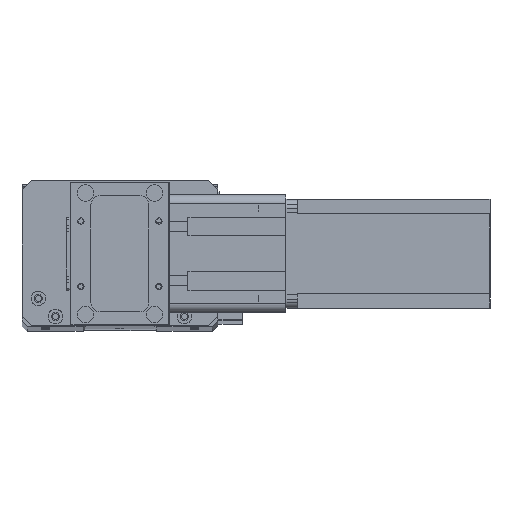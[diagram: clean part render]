
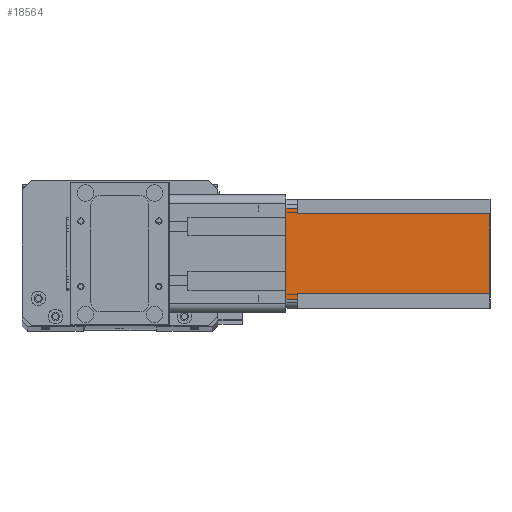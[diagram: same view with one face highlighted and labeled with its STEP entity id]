
A CAD part, top view. The second image highlights one B-rep face of the part: STEP entity #18564.
In plain terms, the highlighted planar face has unit normal (0, 0, 1) as drawn and (0, 1, 0) by its records, which use the part's own axes.
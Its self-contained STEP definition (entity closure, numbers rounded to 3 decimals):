
#479 = ORIENTED_EDGE ( 'NONE', *, *, #3819, .F. ) ;
#511 = ORIENTED_EDGE ( 'NONE', *, *, #12224, .T. ) ;
#884 = FACE_OUTER_BOUND ( 'NONE', #16143, .T. ) ;
#958 = CARTESIAN_POINT ( 'NONE',  ( 0., 60., -112.5 ) ) ;
#1013 = CARTESIAN_POINT ( 'NONE',  ( 55., 60., -112.5 ) ) ;
#2770 = ORIENTED_EDGE ( 'NONE', *, *, #6332, .F. ) ;
#2960 = CARTESIAN_POINT ( 'NONE',  ( 8., 60., -112.5 ) ) ;
#3189 = LINE ( 'NONE', #5468, #19114 ) ;
#3336 = CARTESIAN_POINT ( 'NONE',  ( 5., 60., -6.5 ) ) ;
#3756 = LINE ( 'NONE', #12650, #20390 ) ;
#3819 = EDGE_CURVE ( 'NONE', #23980, #13142, #3756, .T. ) ;
#4429 = EDGE_CURVE ( 'NONE', #10840, #7482, #12488, .T. ) ;
#4740 = ORIENTED_EDGE ( 'NONE', *, *, #25479, .T. ) ;
#4956 = VERTEX_POINT ( 'NONE', #17082 ) ;
#5401 = DIRECTION ( 'NONE',  ( 0., 1., 0. ) ) ;
#5468 = CARTESIAN_POINT ( 'NONE',  ( 8., 60., -6.5 ) ) ;
#6191 = DIRECTION ( 'NONE',  ( 0., 0., 1. ) ) ;
#6332 = EDGE_CURVE ( 'NONE', #8512, #7482, #25087, .T. ) ;
#6613 = VERTEX_POINT ( 'NONE', #13429 ) ;
#7417 = VECTOR ( 'NONE', #6191, 1000. ) ;
#7482 = VERTEX_POINT ( 'NONE', #25345 ) ;
#7698 = VECTOR ( 'NONE', #14959, 1000. ) ;
#8322 = DIRECTION ( 'NONE',  ( -1., 0., 0. ) ) ;
#8512 = VERTEX_POINT ( 'NONE', #26547 ) ;
#8681 = VECTOR ( 'NONE', #22760, 1000. ) ;
#10378 = CARTESIAN_POINT ( 'NONE',  ( 0., 60., -112.5 ) ) ;
#10840 = VERTEX_POINT ( 'NONE', #3336 ) ;
#12224 = EDGE_CURVE ( 'NONE', #8512, #4956, #14455, .T. ) ;
#12488 = LINE ( 'NONE', #23602, #7417 ) ;
#12650 = CARTESIAN_POINT ( 'NONE',  ( 52., 60., -112.5 ) ) ;
#12687 = CARTESIAN_POINT ( 'NONE',  ( 52., 60., -6.5 ) ) ;
#13142 = VERTEX_POINT ( 'NONE', #12687 ) ;
#13380 = CARTESIAN_POINT ( 'NONE',  ( 52., 60., -112.5 ) ) ;
#13429 = CARTESIAN_POINT ( 'NONE',  ( 8., 60., -112.5 ) ) ;
#14455 = LINE ( 'NONE', #1013, #8681 ) ;
#14464 = CARTESIAN_POINT ( 'NONE',  ( 52., 60., -6.5 ) ) ;
#14800 = CARTESIAN_POINT ( 'NONE',  ( 8., 60., -6.5 ) ) ;
#14959 = DIRECTION ( 'NONE',  ( -1., 0., 0. ) ) ;
#15499 = ORIENTED_EDGE ( 'NONE', *, *, #4429, .T. ) ;
#16143 = EDGE_LOOP ( 'NONE', ( #2770, #511, #17781, #479, #26477, #25583, #4740, #15499 ) ) ;
#16548 = LINE ( 'NONE', #14464, #27439 ) ;
#16597 = DIRECTION ( 'NONE',  ( 1., 0., 0. ) ) ;
#17082 = CARTESIAN_POINT ( 'NONE',  ( 55., 60., -6.5 ) ) ;
#17096 = EDGE_CURVE ( 'NONE', #23980, #6613, #23684, .T. ) ;
#17781 = ORIENTED_EDGE ( 'NONE', *, *, #22690, .F. ) ;
#17855 = VECTOR ( 'NONE', #8322, 1000. ) ;
#18484 = EDGE_CURVE ( 'NONE', #26429, #6613, #25365, .T. ) ;
#18558 = DIRECTION ( 'NONE',  ( -1., 0., 0. ) ) ;
#18564 = ADVANCED_FACE ( 'NONE', ( #884 ), #27078, .T. ) ;
#19114 = VECTOR ( 'NONE', #18558, 1000. ) ;
#19547 = VECTOR ( 'NONE', #22508, 1000. ) ;
#20390 = VECTOR ( 'NONE', #23637, 1000. ) ;
#20610 = DIRECTION ( 'NONE',  ( 0., 0., 1. ) ) ;
#22508 = DIRECTION ( 'NONE',  ( 0., 0., -1. ) ) ;
#22690 = EDGE_CURVE ( 'NONE', #13142, #4956, #16548, .T. ) ;
#22760 = DIRECTION ( 'NONE',  ( 0., 0., -1. ) ) ;
#23602 = CARTESIAN_POINT ( 'NONE',  ( 5., 60., -112.5 ) ) ;
#23637 = DIRECTION ( 'NONE',  ( 0., 0., 1. ) ) ;
#23684 = LINE ( 'NONE', #10378, #17855 ) ;
#23980 = VERTEX_POINT ( 'NONE', #13380 ) ;
#25087 = LINE ( 'NONE', #25747, #7698 ) ;
#25345 = CARTESIAN_POINT ( 'NONE',  ( 5., 60., 0. ) ) ;
#25365 = LINE ( 'NONE', #2960, #19547 ) ;
#25479 = EDGE_CURVE ( 'NONE', #26429, #10840, #3189, .T. ) ;
#25583 = ORIENTED_EDGE ( 'NONE', *, *, #18484, .F. ) ;
#25747 = CARTESIAN_POINT ( 'NONE',  ( 0., 60., 0. ) ) ;
#26429 = VERTEX_POINT ( 'NONE', #14800 ) ;
#26477 = ORIENTED_EDGE ( 'NONE', *, *, #17096, .T. ) ;
#26547 = CARTESIAN_POINT ( 'NONE',  ( 55., 60., 0. ) ) ;
#26811 = AXIS2_PLACEMENT_3D ( 'NONE', #958, #5401, #20610 ) ;
#27078 = PLANE ( 'NONE',  #26811 ) ;
#27439 = VECTOR ( 'NONE', #16597, 1000. ) ;
